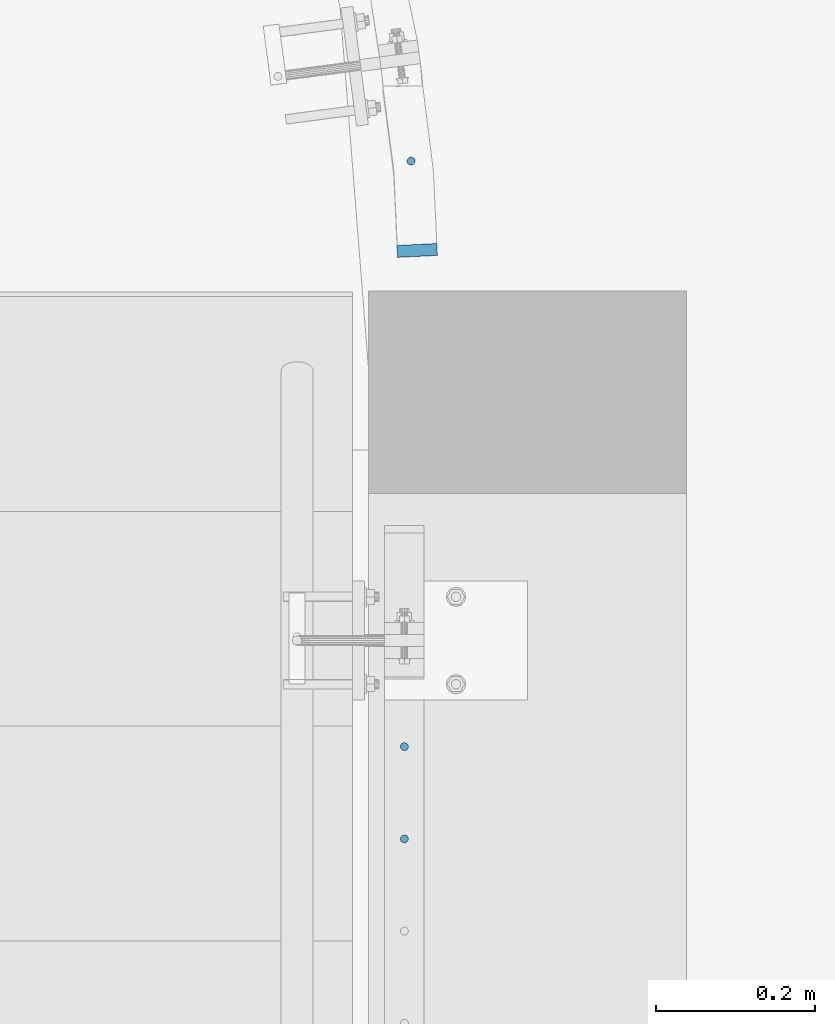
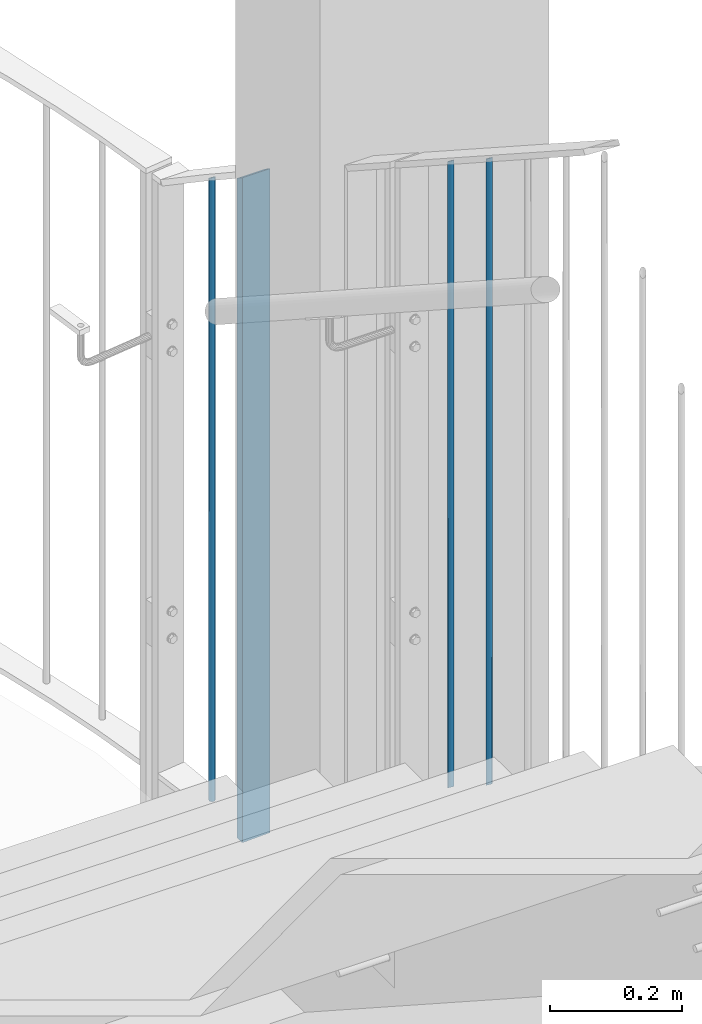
# One storey, part 84 of 296: 4 columns.
"""IFC2X3 building model written with IfcOpenShell, lengths in millimetres."""

from ifc_helpers import new_model, entity, si_unit, converted_unit, frame, origin, origin_with_axes, origin_2d, place, context, project, spatial, rectangle, circle, extrude, clip, halfspace, material, element, save


model = new_model("IFC2X3")

# Units and contexts
model_context = context("Model", 3, precision=1e-09, world=origin_with_axes())
ifc_project = project(units=[si_unit("LENGTHUNIT", "METRE", prefix="MILLI"), si_unit("AREAUNIT", "SQUARE_METRE"), si_unit("VOLUMEUNIT", "CUBIC_METRE"), converted_unit("PLANEANGLEUNIT", "DEGREE", entity("IfcPlaneAngleMeasure", 0.01745329), si_unit("PLANEANGLEUNIT", "RADIAN"), dimensions=[0, 0, 0, 0, 0, 0, 0])], contexts=[model_context])

# Site, building, storey
site_placement = place(None, origin_with_axes())
site = spatial("IfcSite", under=ifc_project, at=site_placement, Name="TZD-S?d | Treppenhausgel?nder", CompositionType="ELEMENT")
building_placement = place(site_placement, origin_with_axes())
building = spatial("IfcBuilding", under=site, at=building_placement, Name="Struktur 1", CompositionType="ELEMENT")
storey_placement = place(building_placement, origin_with_axes())
storey = spatial("IfcBuildingStorey", under=building, at=storey_placement, Name="Default Storey", CompositionType="ELEMENT", Elevation=0.0)

# Columns
ifc_material = material(Name="S235JR")
column_1_placement = place(None, frame((5894.999, -689.7222223, 12259.517135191), z_axis=(0.0, 0.0, -1.0), x_axis=(0.0, 1.0, 0.0)))
element("IfcColumn", 1, at=column_1_placement, inside=storey, material=ifc_material, Name="-", ObjectType="-", context=model_context, shape_type="Clipping", body=[
    clip(clip(extrude(circle(Radius=5.0, at=origin_2d()), origin(), (0.0, 0.0, -1.0), 1184.934501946), halfspace(frame((6612.909224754, -5894.999, 3110.92519102), z_axis=(-0.543478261, 0.0, 0.839423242), x_axis=(0.0, 1.0, 0.0)), True)), halfspace(frame((6085.454101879, -5894.999, 3925.600075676), z_axis=(0.543478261, 0.0, -0.839423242), x_axis=(0.0, -1.0, 0.0)), True)),
])
column_2_placement = place(None, frame((5894.999, -573.6111112, 12184.341870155), z_axis=(0.0, 0.0, -1.0), x_axis=(0.0, 1.0, 0.0)))
element("IfcColumn", 2, at=column_2_placement, inside=storey, material=ifc_material, Name="-", ObjectType="-", context=model_context, shape_type="Clipping", body=[
    clip(clip(extrude(circle(Radius=5.0, at=origin_2d()), origin(), (0.0, 0.0, -1.0), 1184.934501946), halfspace(frame((6496.798113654, -5894.999, 3035.749925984), z_axis=(-0.543478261, 0.0, 0.839423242), x_axis=(0.0, 1.0, 0.0)), True)), halfspace(frame((5969.342990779, -5894.999, 3850.42481064), z_axis=(0.543478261, 0.0, -0.839423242), x_axis=(0.0, -1.0, 0.0)), True)),
])
column_3_placement = place(None, frame((5911.196839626, 50.945967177, 12978.176159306), z_axis=(0.0, 0.0, 1.0), x_axis=(0.047978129, -0.998848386, 0.0)))
element("IfcColumn", 3, at=column_3_placement, inside=storey, material=ifc_material, Name="-", ObjectType="-", context=model_context, shape_type="Clipping", body=[
    clip(extrude(rectangle(XDim=15.0, YDim=50.0, at=origin_2d()), origin(), (0.0, 0.0, -1.0), 1253.176159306), halfspace(frame((-6148.339351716, -5622.686185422, -3833.841184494), z_axis=(0.542982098, -0.0260813, -0.839339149), x_axis=(0.047978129, 0.998848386, 0.0)), True)),
])
column_4_placement = place(None, frame((5903.37643005, 163.389143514, 11725.0), z_axis=(0.0, 0.0, -1.0), x_axis=(0.0, 1.0, 0.0)))
element("IfcColumn", 4, at=column_4_placement, inside=storey, material=ifc_material, Name="-", ObjectType="-", context=model_context, shape_type="Clipping", body=[
    clip(extrude(circle(Radius=5.0, at=origin_2d()), origin(), (0.0, 0.0, -1.0), 1157.678740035), halfspace(frame((5759.049704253, -5903.376430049, 2580.665025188), z_axis=(-0.543608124, 0.0, 0.839339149), x_axis=(0.0, 1.0, 0.0)), True)),
])

save(model, "model.ifc")
